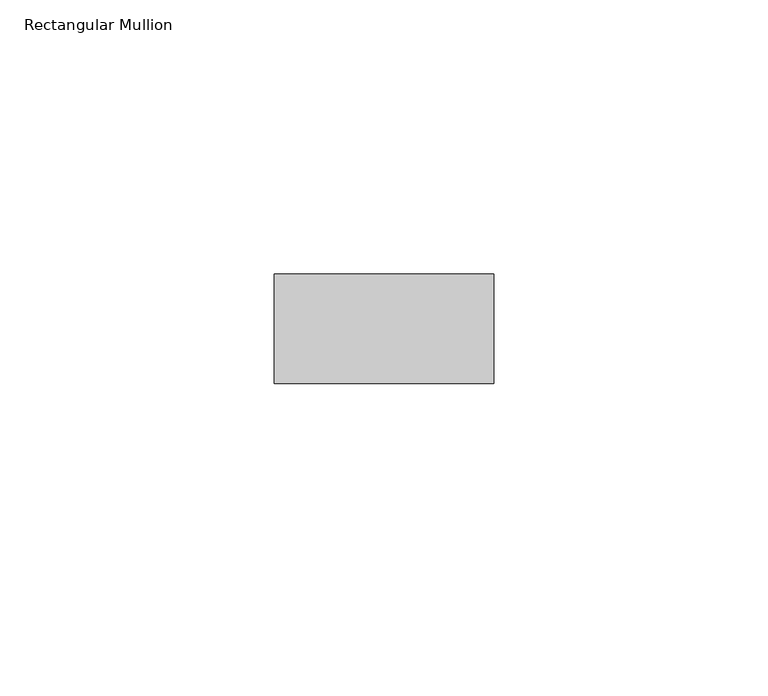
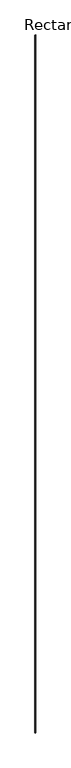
"""IFC4 building model written with IfcOpenShell, lengths in millimetres: member geometry, Rectangular Mullion : RIPA 4x2 cm."""

from ifc_helpers import new_model, si_unit, frame, origin, place, context, project, spatial, polyline, outline, extrude, source, transform, mapped, element, save


def rectangular_mullion_ae74f95d(model_context):
    return source(origin(), model_context, "Body", "SweptSolid", [
        extrude(outline(polyline([(20.0, 0.0), (20.0, -20.0), (-20.0, -20.0), (-20.0, 0.0), (20.0, 0.0)])), frame((0.0, 0.0, -39500.5608674), z_axis=(0.0, 0.0, 1.0), x_axis=(1.0, 0.0, 0.0)), (0.0, 0.0, 1.0), 39500.5608674),
    ])


if __name__ == "__main__":
    model = new_model("IFC4")
    model_context = context("Model", 3, world=origin())
    ifc_project = project(units=[si_unit("LENGTHUNIT", "METRE", prefix="MILLI")], contexts=[model_context])
    site = spatial("IfcSite", under=ifc_project)
    building = spatial("IfcBuilding", under=site)
    placement = place(None, origin())
    rectangular_mullion_shape = rectangular_mullion_ae74f95d(model_context)
    element("IfcMember", 1, ObjectType="Rectangular Mullion : RIPA 4x2 cm", at=placement, inside=building, context=model_context, shape_type="MappedRepresentation", body=[
        mapped(rectangular_mullion_shape, transform((0.0, 0.0, 0.0), x_axis=(1.0, 0.0, 0.0), y_axis=(0.0, 1.0, 0.0), z_axis=(0.0, 0.0, 1.0))),
    ])
    save(model, "model.ifc")
